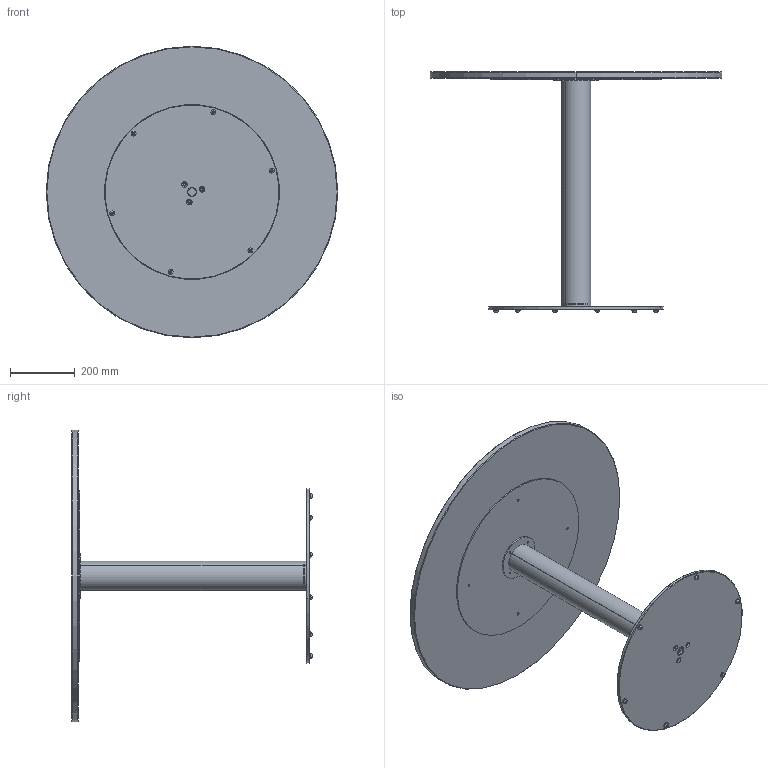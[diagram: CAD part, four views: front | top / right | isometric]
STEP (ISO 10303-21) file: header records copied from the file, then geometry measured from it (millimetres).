
FILE_DESCRIPTION (( 'STEP AP214' ), '1' );
FILE_NAME ('Missing Bistro Table, Ø90 Assembly.STEP', '2025-01-22T14:44:26', ( '' ), ( '' ), 'SwSTEP 2.0', 'SolidWorks 2024', '' );
FILE_SCHEMA (( 'AUTOMOTIVE_DESIGN' ));
Length unit declared in the file: millimetre
Products named in the file (5): Missing Bistro Table, Medium Support plate; Missing Bistro Table, Ø90 Assembly; Ø90 Tabletop; Missing Bistro Table, Medium column Ø90; Missing Bistro Table, Medium Base
Assembly tree (4 placements, depth 2):
  Missing Bistro Table, Ø90 Assembly
    Ø90 Tabletop
    Missing Bistro Table, Medium column Ø90
    Missing Bistro Table, Medium Support plate
    Missing Bistro Table, Medium Base
Bounding box: 900 x 742 x 900 mm (x, y, z)
Volume: 16497621 mm3; surface area: 2657400.4 mm2
Topology: 12 solids, 12 shells, 144 faces, 310 edges, 194 vertices
Faces by surface type: cylinder 78, plane 28, cone 26, torus 12
Entity records: 4294 total; most frequent: DIRECTION 818, CARTESIAN_POINT 655, ORIENTED_EDGE 620, AXIS2_PLACEMENT_3D 357, EDGE_CURVE 310, CIRCLE 206, VERTEX_POINT 194, EDGE_LOOP 194
